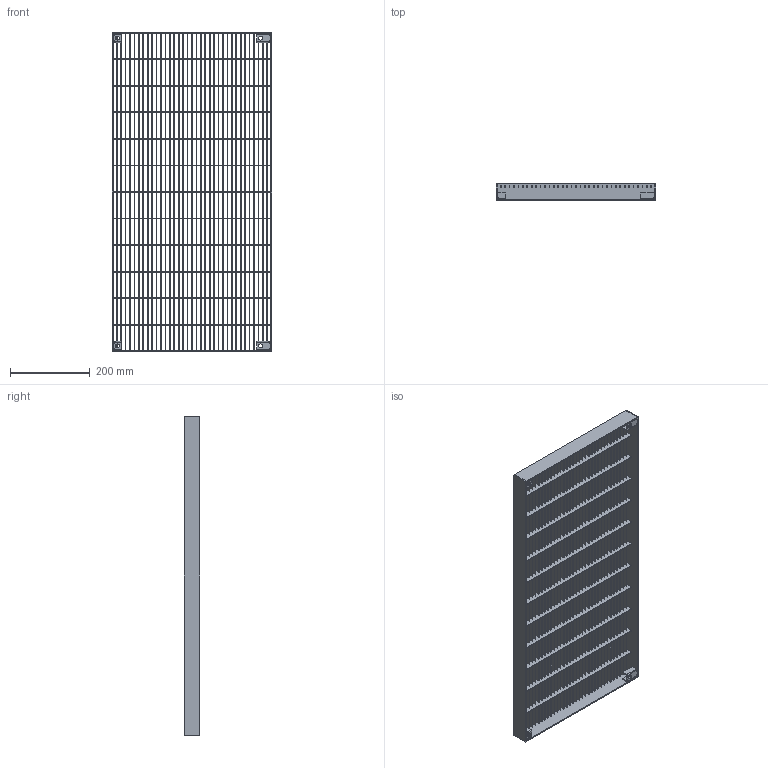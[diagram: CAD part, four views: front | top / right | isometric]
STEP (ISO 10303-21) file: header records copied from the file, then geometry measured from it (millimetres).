
FILE_DESCRIPTION (( 'STEP AP203' ), '1' );
FILE_NAME ('13012408G_Trinrist_400x800_10x60_20x2_mm_.STEP', '2015-01-06T06:11:23', ( '' ), ( '' ), 'SwSTEP 2.0', 'SolidWorks 2013', '' );
FILE_SCHEMA (( 'CONFIG_CONTROL_DESIGN' ));
Length unit declared in the file: millimetre
Products named in the file (7): 13012408G_Kantstaal_40x3x394_mm_; 13012408G_Kantstaal_40x3x800_mm_; 13012408G_Benbeslag_kort_model; 13012408G_Benbeslag_lang_model; 13012408G_Trinrist_400x800_10x60_20x2_mm_; 13012408G_Ribbe_20x2x394_mm_; 13012408G_Tvaerstav_20x2x794_mm_
Assembly tree (54 placements, depth 2):
  13012408G_Trinrist_400x800_10x60_20x2_mm_
    13012408G_Ribbe_20x2x394_mm_  x11
    13012408G_Tvaerstav_20x2x794_mm_  x35
    13012408G_Kantstaal_40x3x394_mm_  x2
    13012408G_Kantstaal_40x3x800_mm_  x2
    13012408G_Benbeslag_kort_model  x2
    13012408G_Benbeslag_lang_model  x2
Bounding box: 400 x 40 x 800 mm (x, y, z)
Volume: 1010446.7 mm3; surface area: 1077966.5 mm2
Topology: 54 solids, 54 shells, 1948 faces, 5456 edges, 3616 vertices
Faces by surface type: plane 1904, cylinder 36, bspline 8
Full cylindrical faces by diameter (mm): 10 x4
Entity records: 9161 total; most frequent: CARTESIAN_POINT 1507, ORIENTED_EDGE 1168, DIRECTION 1138, EDGE_CURVE 584, VECTOR 540, LINE 540, VERTEX_POINT 380, AXIS2_PLACEMENT_3D 299
